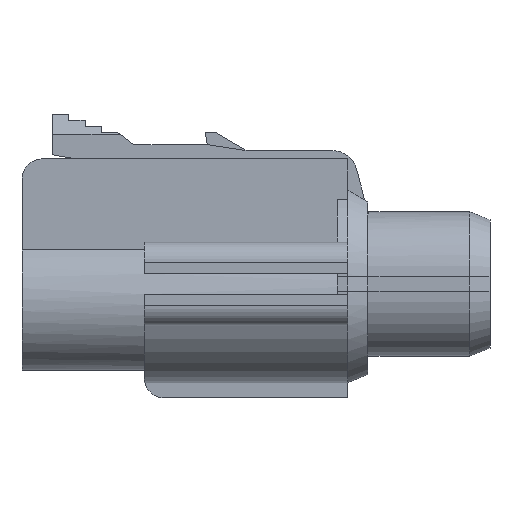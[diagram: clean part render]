
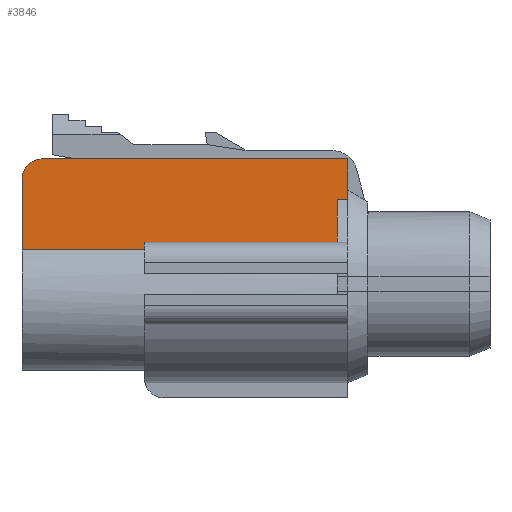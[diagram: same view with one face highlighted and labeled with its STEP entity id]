
A CAD part, front view. The second image highlights one B-rep face of the part: STEP entity #3846.
In plain terms, the highlighted planar face has unit normal (0, -1, 0).
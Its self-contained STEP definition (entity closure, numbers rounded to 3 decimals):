
#3809=AXIS2_PLACEMENT_3D('Plane Axis2P3D',#3806,#3807,#3808) ;
#3813=AXIS2_PLACEMENT_3D('Circle Axis2P3D',#3811,#3812,$) ;
#413=CARTESIAN_POINT('Vertex',(-7.5,-2.,5.357)) ;
#416=CARTESIAN_POINT('Line Origine',(-7.5,-2.,4.303)) ;
#420=CARTESIAN_POINT('Vertex',(-7.5,-2.,3.25)) ;
#711=CARTESIAN_POINT('Vertex',(-17.,-2.,2.875)) ;
#714=CARTESIAN_POINT('Line Origine',(-15.61,-2.,2.875)) ;
#718=CARTESIAN_POINT('Vertex',(-23.,-2.,2.875)) ;
#1044=CARTESIAN_POINT('Vertex',(-7.,-2.,7.35)) ;
#1047=CARTESIAN_POINT('Line Origine',(-7.,-2.,6.353)) ;
#1051=CARTESIAN_POINT('Vertex',(-7.,-2.,5.357)) ;
#2881=CARTESIAN_POINT('Line Origine',(-12.11,-2.,5.357)) ;
#3780=CARTESIAN_POINT('Line Origine',(-14.5,-2.,7.35)) ;
#3784=CARTESIAN_POINT('Vertex',(-22.,-2.,7.35)) ;
#3806=CARTESIAN_POINT('Axis2P3D Location',(-7.,-2.,7.35)) ;
#3811=CARTESIAN_POINT('Axis2P3D Location',(-22.,-2.,6.35)) ;
#3815=CARTESIAN_POINT('Vertex',(-23.,-2.,6.35)) ;
#3818=CARTESIAN_POINT('Line Origine',(-23.,-2.,4.612)) ;
#3823=CARTESIAN_POINT('Line Origine',(-17.,-2.,3.062)) ;
#3827=CARTESIAN_POINT('Vertex',(-17.,-2.,3.25)) ;
#3830=CARTESIAN_POINT('Line Origine',(-12.25,-2.,3.25)) ;
#417=DIRECTION('Vector Direction',(0.,0.,-1.)) ;
#715=DIRECTION('Vector Direction',(-1.,0.,0.)) ;
#1048=DIRECTION('Vector Direction',(0.,0.,-1.)) ;
#2882=DIRECTION('Vector Direction',(1.,0.,0.)) ;
#3781=DIRECTION('Vector Direction',(-1.,0.,0.)) ;
#3807=DIRECTION('Axis2P3D Direction',(-0.,1.,0.)) ;
#3808=DIRECTION('Axis2P3D XDirection',(0.,0.,-1.)) ;
#3812=DIRECTION('Axis2P3D Direction',(-0.,1.,0.)) ;
#3819=DIRECTION('Vector Direction',(0.,0.,-1.)) ;
#3824=DIRECTION('Vector Direction',(0.,0.,-1.)) ;
#3831=DIRECTION('Vector Direction',(-1.,0.,0.)) ;
#418=VECTOR('Line Direction',#417,1.) ;
#716=VECTOR('Line Direction',#715,1.) ;
#1049=VECTOR('Line Direction',#1048,1.) ;
#2883=VECTOR('Line Direction',#2882,1.) ;
#3782=VECTOR('Line Direction',#3781,1.) ;
#3820=VECTOR('Line Direction',#3819,1.) ;
#3825=VECTOR('Line Direction',#3824,1.) ;
#3832=VECTOR('Line Direction',#3831,1.) ;
#3836=ORIENTED_EDGE('',*,*,#3817,.F.) ;
#3837=ORIENTED_EDGE('',*,*,#3822,.T.) ;
#3838=ORIENTED_EDGE('',*,*,#720,.F.) ;
#3839=ORIENTED_EDGE('',*,*,#3829,.T.) ;
#3840=ORIENTED_EDGE('',*,*,#3834,.F.) ;
#3841=ORIENTED_EDGE('',*,*,#422,.T.) ;
#3842=ORIENTED_EDGE('',*,*,#2885,.F.) ;
#3843=ORIENTED_EDGE('',*,*,#1053,.T.) ;
#3844=ORIENTED_EDGE('',*,*,#3786,.T.) ;
#3846=ADVANCED_FACE('\X2\FF8AFF9FFF70FF82\X0\ \X2\FF8EFF9EFF83FF9EFF68FF70\X0\',(#3845),#3810,.F.) ;
#3814=CIRCLE('generated circle',#3813,1.) ;
#422=EDGE_CURVE('',#421,#414,#419,.F.) ;
#720=EDGE_CURVE('',#712,#719,#717,.T.) ;
#1053=EDGE_CURVE('',#1052,#1045,#1050,.F.) ;
#2885=EDGE_CURVE('',#1052,#414,#2884,.F.) ;
#3786=EDGE_CURVE('',#1045,#3785,#3783,.T.) ;
#3817=EDGE_CURVE('',#3816,#3785,#3814,.T.) ;
#3822=EDGE_CURVE('',#3816,#719,#3821,.T.) ;
#3829=EDGE_CURVE('',#712,#3828,#3826,.F.) ;
#3834=EDGE_CURVE('',#421,#3828,#3833,.T.) ;
#3835=EDGE_LOOP('',(#3836,#3837,#3838,#3839,#3840,#3841,#3842,#3843,#3844)) ;
#3845=FACE_OUTER_BOUND('',#3835,.T.) ;
#419=LINE('Line',#416,#418) ;
#717=LINE('Line',#714,#716) ;
#1050=LINE('Line',#1047,#1049) ;
#2884=LINE('Line',#2881,#2883) ;
#3783=LINE('Line',#3780,#3782) ;
#3821=LINE('Line',#3818,#3820) ;
#3826=LINE('Line',#3823,#3825) ;
#3833=LINE('Line',#3830,#3832) ;
#3810=PLANE('',#3809) ;
#414=VERTEX_POINT('',#413) ;
#421=VERTEX_POINT('',#420) ;
#712=VERTEX_POINT('',#711) ;
#719=VERTEX_POINT('',#718) ;
#1045=VERTEX_POINT('',#1044) ;
#1052=VERTEX_POINT('',#1051) ;
#3785=VERTEX_POINT('',#3784) ;
#3816=VERTEX_POINT('',#3815) ;
#3828=VERTEX_POINT('',#3827) ;
